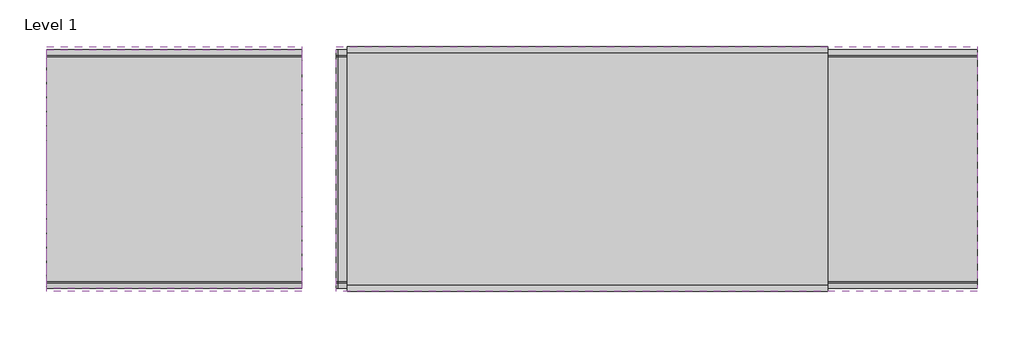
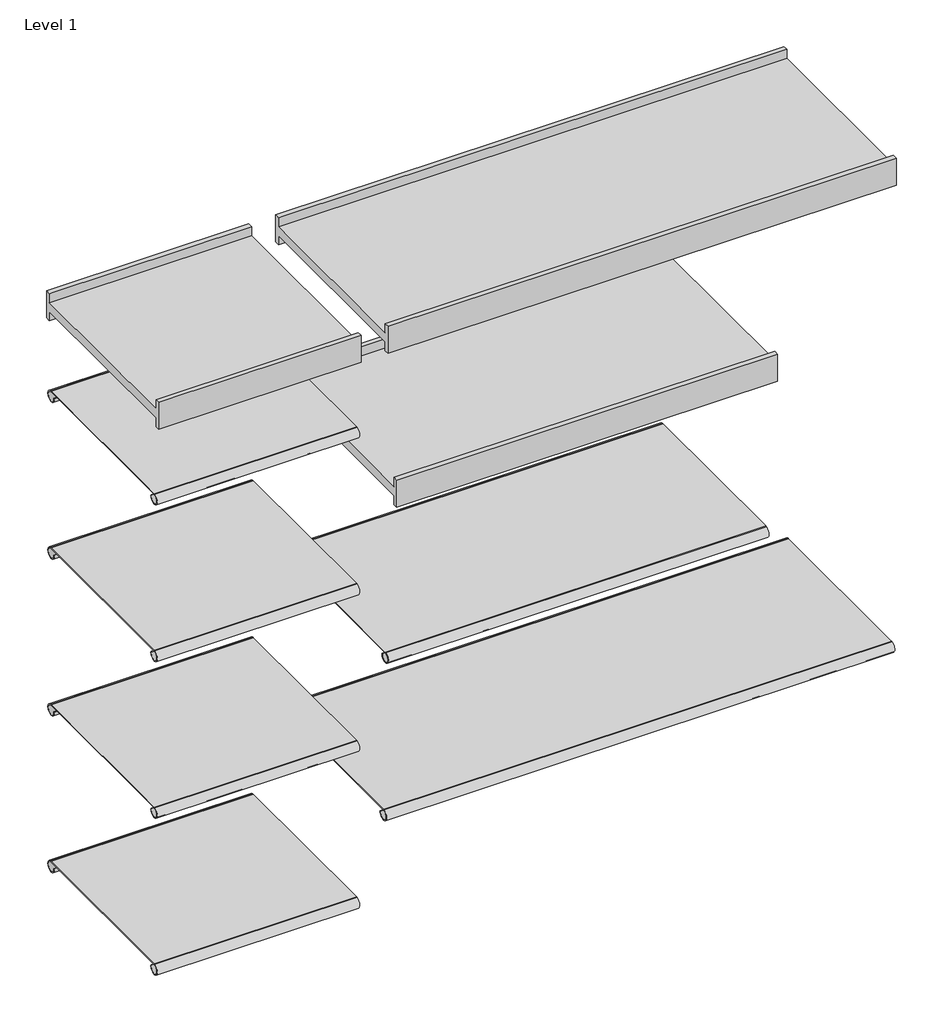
# One storey, incomplete: 9 furniture elements.
"""IFC4 building model written with IfcOpenShell, lengths in millimetres."""

from ifc_helpers import new_model, si_unit, origin, place, context, project, spatial, transform, mapped, element, save
from components import furniture_fcc896ba, furniture_10d49e3e, furniture_12282510, ofs_vide_wood_storage_shelves_wood_storage_shelf_16_a3ba5fe4, ofs_vide_wood_storage_shelves_wood_storage_shelf_30_c1451185, ofs_vide_wood_storage_shelves_wood_storage_shelf_40_a35b5033

model = new_model("IFC4")

# Units and contexts
model_context = context("Model", 3, world=origin())
ifc_project = project(units=[si_unit("LENGTHUNIT", "METRE", prefix="MILLI")], contexts=[model_context])

# Site, building, storey
site = spatial("IfcSite", under=ifc_project)
building = spatial("IfcBuilding", under=site)
storey = spatial("IfcBuildingStorey", under=building, Name="Level 1", Elevation=0.0)

# Furniture
placement = place(None, origin())
furniture_shape = furniture_fcc896ba(model_context)
element("IfcFurniture", 1, ObjectType="OFS VIDE LEATHER SLING SHELVES : Leather Sling Shelf 16", at=placement, inside=storey, context=model_context, shape_type="MappedRepresentation", body=[
    mapped(furniture_shape, transform((-21928.702421, -4909.6252644, 165.1), x_axis=(1.0, 0.0, 0.0), y_axis=(0.0, 1.0, 0.0), z_axis=(0.0, 0.0, 1.0))),
])
element("IfcFurniture", 2, ObjectType="OFS VIDE LEATHER SLING SHELVES : Leather Sling Shelf 16", at=placement, inside=storey, context=model_context, shape_type="MappedRepresentation", body=[
    mapped(furniture_shape, transform((-21928.702421, -4909.6252644, 495.3), x_axis=(1.0, 0.0, 0.0), y_axis=(0.0, 1.0, 0.0), z_axis=(0.0, 0.0, 1.0))),
])
element("IfcFurniture", 3, ObjectType="OFS VIDE LEATHER SLING SHELVES : Leather Sling Shelf 16", at=placement, inside=storey, context=model_context, shape_type="MappedRepresentation", body=[
    mapped(furniture_shape, transform((-21928.702421, -4909.6252644, 825.5), x_axis=(1.0, 0.0, 0.0), y_axis=(0.0, 1.0, 0.0), z_axis=(0.0, 0.0, 1.0))),
])
element("IfcFurniture", 4, ObjectType="OFS VIDE LEATHER SLING SHELVES : Leather Sling Shelf 16", at=placement, inside=storey, context=model_context, shape_type="MappedRepresentation", body=[
    mapped(furniture_shape, transform((-21928.702421, -4909.6252644, 1155.7), x_axis=(1.0, 0.0, 0.0), y_axis=(0.0, 1.0, 0.0), z_axis=(0.0, 0.0, 1.0))),
])
furniture_2_shape = furniture_10d49e3e(model_context)
element("IfcFurniture", 5, ObjectType="OFS VIDE LEATHER SLING SHELVES : Leather Sling Shelf 30", at=placement, inside=storey, context=model_context, shape_type="MappedRepresentation", body=[
    mapped(furniture_2_shape, transform((-21290.2555831, -4909.6252644, 660.4), x_axis=(1.0, 0.0, 0.0), y_axis=(0.0, 1.0, 0.0), z_axis=(0.0, 0.0, 1.0))),
])
furniture_3_shape = furniture_12282510(model_context)
element("IfcFurniture", 6, ObjectType="OFS VIDE LEATHER SLING SHELVES : Leather Sling Shelf 40", at=placement, inside=storey, context=model_context, shape_type="MappedRepresentation", body=[
    mapped(furniture_3_shape, transform((-21166.702421, -4909.6252644, 330.2), x_axis=(1.0, 0.0, 0.0), y_axis=(0.0, 1.0, 0.0), z_axis=(0.0, 0.0, 1.0))),
])
ofs_vide_wood_storage_shelves_wood_storage_shelf_16_shape = ofs_vide_wood_storage_shelves_wood_storage_shelf_16_a3ba5fe4(model_context)
element("IfcFurniture", 7, ObjectType="OFS VIDE WOOD STORAGE SHELVES : Wood Storage Shelf 16", at=placement, inside=storey, context=model_context, shape_type="MappedRepresentation", body=[
    mapped(ofs_vide_wood_storage_shelves_wood_storage_shelf_16_shape, transform((-21928.702421, -4909.6252644, 1320.8), x_axis=(1.0, 0.0, 0.0), y_axis=(0.0, 1.0, 0.0), z_axis=(0.0, 0.0, 1.0))),
])
ofs_vide_wood_storage_shelves_wood_storage_shelf_30_shape = ofs_vide_wood_storage_shelves_wood_storage_shelf_30_c1451185(model_context)
element("IfcFurniture", 8, ObjectType="OFS VIDE WOOD STORAGE SHELVES : Wood Storage Shelf 30", at=placement, inside=storey, context=model_context, shape_type="MappedRepresentation", body=[
    mapped(ofs_vide_wood_storage_shelves_wood_storage_shelf_30_shape, transform((-21276.239921, -4909.6252644, 990.6), x_axis=(1.0, 0.0, 0.0), y_axis=(0.0, 1.0, 0.0), z_axis=(0.0, 0.0, 1.0))),
])
ofs_vide_wood_storage_shelves_wood_storage_shelf_40_shape = ofs_vide_wood_storage_shelves_wood_storage_shelf_40_a35b5033(model_context)
element("IfcFurniture", 9, ObjectType="OFS VIDE WOOD STORAGE SHELVES : Wood Storage Shelf 40", at=placement, inside=storey, context=model_context, shape_type="MappedRepresentation", body=[
    mapped(ofs_vide_wood_storage_shelves_wood_storage_shelf_40_shape, transform((-21166.702421, -4909.6252644, 1320.8), x_axis=(1.0, 0.0, 0.0), y_axis=(0.0, 1.0, 0.0), z_axis=(0.0, 0.0, 1.0))),
])

save(model, "model.ifc")
